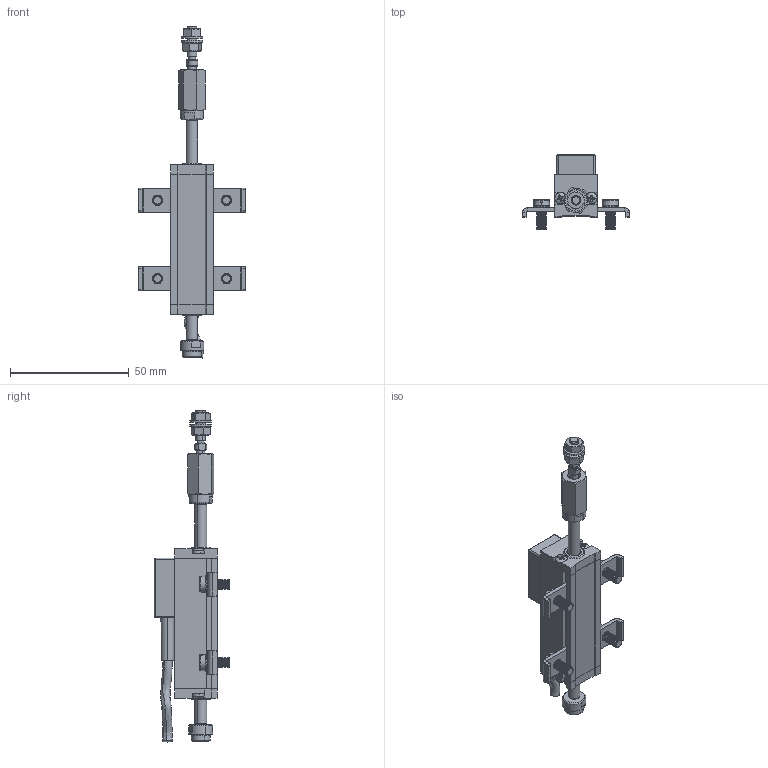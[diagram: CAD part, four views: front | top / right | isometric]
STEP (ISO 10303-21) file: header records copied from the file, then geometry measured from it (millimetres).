
FILE_DESCRIPTION (( 'STEP AP203' ), '1' );
FILE_NAME ('PY-1-F-025.STEP', '2016-06-01T14:27:39', ( '' ), ( '' ), 'SwSTEP 2.0', 'SolidWorks 2015', '' );
FILE_SCHEMA (( 'CONFIG_CONTROL_DESIGN' ));
Length unit declared in the file: millimetre
Products named in the file (22): MIM201X_MIM201; STA029X; PY-1-F-025; MIM501X_MIM501; MIM510X_DIN 6905-3.6-FSt; MIM500X_DIN 6798-J4.3; MIM892X_ISO 1207 - M4 x 10 --- 10S; PKIT020X; BUS025X; PRE040X; ALB045X; CUS045X; MIM797X_ISO 7046-1 - M2 x 10 - Z --- 10S; CUS100X; MIM828X_ISO 7045 - M2.5 x 8 - Z --- 8S; TES045X; FLA000X; CNT007X; PAS000X; ALB100X; TES053X; PY-CAVOX
Assembly tree (37 placements, depth 3):
  PY-1-F-025
    CUS045X
    MIM828X_ISO 7045 - M2.5 x 8 - Z --- 8S  x4
    CNT007X  x2
    TES053X
    STA029X  x4
    MIM510X_DIN 6905-3.6-FSt  x4
    MIM892X_ISO 1207 - M4 x 10 --- 10S  x4
    BUS025X  x2
    ALB045X
    PKIT020X
      CUS100X
      FLA000X
      ALB100X
      MIM201X_MIM201  x2
      MIM501X_MIM501  x2
      MIM500X_DIN 6798-J4.3
    PRE040X
    MIM797X_ISO 7046-1 - M2 x 10 - Z --- 10S
    TES045X
    PAS000X
    PY-CAVOX
Bounding box: 45 x 31.7 x 139.69 mm (x, y, z)
Volume: 29383.3 mm3; surface area: 19919.4 mm2
Topology: 36 solids, 36 shells, 1809 faces, 4544 edges, 2799 vertices
Faces by surface type: cone 798, cylinder 503, plane 424, torus 50, bspline 18, sphere 16
Entity records: 31248 total; most frequent: CARTESIAN_POINT 5989, DIRECTION 5078, ORIENTED_EDGE 4558, EDGE_CURVE 2279, AXIS2_PLACEMENT_3D 2008, VERTEX_POINT 1415, CIRCLE 1065, LINE 1062
